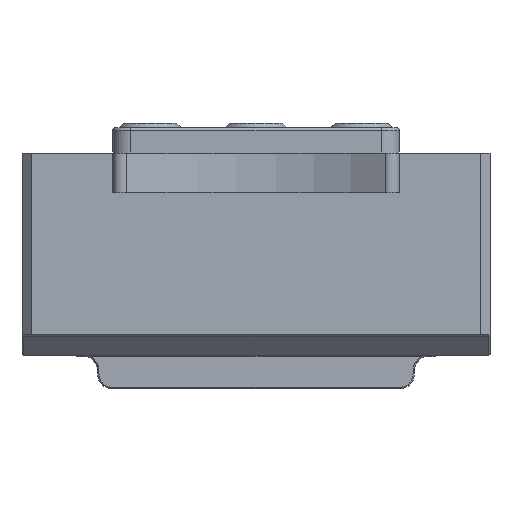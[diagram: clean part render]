
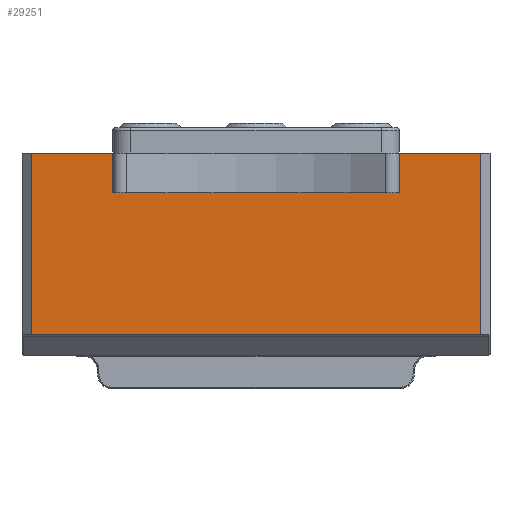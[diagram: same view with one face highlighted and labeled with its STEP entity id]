
A CAD part, front view. The second image highlights one B-rep face of the part: STEP entity #29251.
In plain terms, the highlighted planar face has unit normal (0, -1, 0).
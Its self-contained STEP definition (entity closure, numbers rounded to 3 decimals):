
#1575 = VECTOR ( 'NONE', #31283, 1000. ) ;
#1888 = EDGE_CURVE ( 'NONE', #25668, #37502, #19231, .T. ) ;
#3377 = DIRECTION ( 'NONE',  ( 0., 0., 1. ) ) ;
#3560 = EDGE_CURVE ( 'NONE', #25860, #26562, #39330, .T. ) ;
#3987 = CARTESIAN_POINT ( 'NONE',  ( -74.5, -45., -67. ) ) ;
#4663 = DIRECTION ( 'NONE',  ( 0., 0., -1. ) ) ;
#4681 = DIRECTION ( 'NONE',  ( 0., 0., 1. ) ) ;
#4735 = CARTESIAN_POINT ( 'NONE',  ( -77.5, -45., 0. ) ) ;
#4877 = CARTESIAN_POINT ( 'NONE',  ( -74.5, -45., 0. ) ) ;
#5207 = ORIENTED_EDGE ( 'NONE', *, *, #30211, .T. ) ;
#6119 = LINE ( 'NONE', #13227, #18870 ) ;
#7173 = CARTESIAN_POINT ( 'NONE',  ( 74.5, -45., -60.1 ) ) ;
#9911 = VECTOR ( 'NONE', #4681, 1000. ) ;
#9958 = DIRECTION ( 'NONE',  ( 0., 0., 1. ) ) ;
#10128 = AXIS2_PLACEMENT_3D ( 'NONE', #44813, #25881, #29647 ) ;
#10843 = EDGE_CURVE ( 'NONE', #32682, #42398, #25838, .T. ) ;
#11538 = CARTESIAN_POINT ( 'NONE',  ( 74.5, -45., 0. ) ) ;
#12367 = EDGE_CURVE ( 'NONE', #17366, #41747, #48918, .T. ) ;
#12563 = VECTOR ( 'NONE', #13910, 1000. ) ;
#12741 = ORIENTED_EDGE ( 'NONE', *, *, #12367, .F. ) ;
#13197 = LINE ( 'NONE', #48479, #12563 ) ;
#13227 = CARTESIAN_POINT ( 'NONE',  ( -77.5, -45., 0. ) ) ;
#13910 = DIRECTION ( 'NONE',  ( -1., 0., 0. ) ) ;
#15416 = ORIENTED_EDGE ( 'NONE', *, *, #22052, .T. ) ;
#16147 = ORIENTED_EDGE ( 'NONE', *, *, #47100, .F. ) ;
#17366 = VERTEX_POINT ( 'NONE', #31605 ) ;
#18870 = VECTOR ( 'NONE', #48840, 1000. ) ;
#19231 = LINE ( 'NONE', #50221, #49154 ) ;
#21986 = EDGE_CURVE ( 'NONE', #41747, #42398, #35725, .T. ) ;
#22016 = CARTESIAN_POINT ( 'NONE',  ( 74.5, -45., -67. ) ) ;
#22052 = EDGE_CURVE ( 'NONE', #26562, #32682, #24091, .T. ) ;
#22377 = CARTESIAN_POINT ( 'NONE',  ( -47.5, -45., 0. ) ) ;
#23888 = EDGE_LOOP ( 'NONE', ( #44638, #15416, #37391, #27129, #12741, #5207, #32310, #16147 ) ) ;
#24091 = LINE ( 'NONE', #43397, #30812 ) ;
#24573 = CARTESIAN_POINT ( 'NONE',  ( 47.5, -45., 0. ) ) ;
#25668 = VERTEX_POINT ( 'NONE', #25864 ) ;
#25838 = LINE ( 'NONE', #22016, #42930 ) ;
#25860 = VERTEX_POINT ( 'NONE', #4877 ) ;
#25864 = CARTESIAN_POINT ( 'NONE',  ( -47.5, -45., -13. ) ) ;
#25881 = DIRECTION ( 'NONE',  ( 0., -1., 0. ) ) ;
#26562 = VERTEX_POINT ( 'NONE', #41954 ) ;
#27129 = ORIENTED_EDGE ( 'NONE', *, *, #21986, .F. ) ;
#29251 = ADVANCED_FACE ( 'NONE', ( #48637 ), #29465, .T. ) ;
#29465 = PLANE ( 'NONE',  #10128 ) ;
#29647 = DIRECTION ( 'NONE',  ( 0., 0., 1. ) ) ;
#30211 = EDGE_CURVE ( 'NONE', #17366, #25668, #13197, .T. ) ;
#30812 = VECTOR ( 'NONE', #48311, 1000. ) ;
#31283 = DIRECTION ( 'NONE',  ( 1., 0., 0. ) ) ;
#31605 = CARTESIAN_POINT ( 'NONE',  ( 47.5, -45., -13. ) ) ;
#32310 = ORIENTED_EDGE ( 'NONE', *, *, #1888, .T. ) ;
#32682 = VERTEX_POINT ( 'NONE', #7173 ) ;
#35725 = LINE ( 'NONE', #4735, #1575 ) ;
#37391 = ORIENTED_EDGE ( 'NONE', *, *, #10843, .T. ) ;
#37502 = VERTEX_POINT ( 'NONE', #22377 ) ;
#39330 = LINE ( 'NONE', #3987, #43565 ) ;
#41747 = VERTEX_POINT ( 'NONE', #24573 ) ;
#41954 = CARTESIAN_POINT ( 'NONE',  ( -74.5, -45., -60.1 ) ) ;
#42398 = VERTEX_POINT ( 'NONE', #11538 ) ;
#42930 = VECTOR ( 'NONE', #9958, 1000. ) ;
#43339 = CARTESIAN_POINT ( 'NONE',  ( 47.5, -45., -13. ) ) ;
#43397 = CARTESIAN_POINT ( 'NONE',  ( 74.5, -45., -60.1 ) ) ;
#43565 = VECTOR ( 'NONE', #4663, 1000. ) ;
#44638 = ORIENTED_EDGE ( 'NONE', *, *, #3560, .T. ) ;
#44813 = CARTESIAN_POINT ( 'NONE',  ( 77.5, -45., -67. ) ) ;
#47100 = EDGE_CURVE ( 'NONE', #25860, #37502, #6119, .T. ) ;
#48311 = DIRECTION ( 'NONE',  ( 1., 0., 0. ) ) ;
#48479 = CARTESIAN_POINT ( 'NONE',  ( -47.5, -45., -13. ) ) ;
#48637 = FACE_OUTER_BOUND ( 'NONE', #23888, .T. ) ;
#48840 = DIRECTION ( 'NONE',  ( 1., 0., 0. ) ) ;
#48918 = LINE ( 'NONE', #43339, #9911 ) ;
#49154 = VECTOR ( 'NONE', #3377, 1000. ) ;
#50221 = CARTESIAN_POINT ( 'NONE',  ( -47.5, -45., -13. ) ) ;
